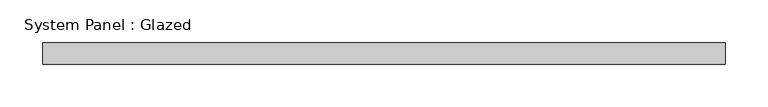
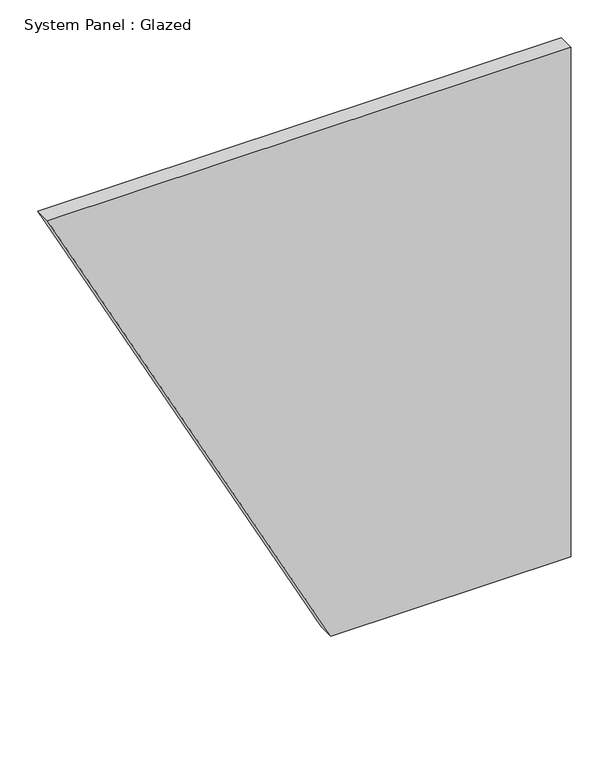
"""IFC4 building model written with IfcOpenShell, lengths in millimetres: plate geometry, System Panel : Glazed."""

from ifc_helpers import new_model, si_unit, frame, origin, place, context, project, spatial, polyline, outline, extrude, source, transform, mapped, element, save


def system_panel_glazed_f67ee010(model_context):
    return source(origin(), model_context, "Body", "SweptSolid", [
        extrude(outline(polyline([(0.0, 33.5088603), (0.0, 399.8447139), (823.0393929, 399.8447139), (823.0393929, -399.8447139), (0.0, 33.5088603)])), frame((0.0, -12.5, 0.0), z_axis=(0.0, 1.0, 0.0), x_axis=(0.0, 0.0, 1.0)), (0.0, 0.0, 1.0), 25.0),
    ])


if __name__ == "__main__":
    model = new_model("IFC4")
    model_context = context("Model", 3, world=origin())
    ifc_project = project(units=[si_unit("LENGTHUNIT", "METRE", prefix="MILLI")], contexts=[model_context])
    site = spatial("IfcSite", under=ifc_project)
    building = spatial("IfcBuilding", under=site)
    placement = place(None, origin())
    system_panel_glazed_shape = system_panel_glazed_f67ee010(model_context)
    element("IfcPlate", 1, ObjectType="System Panel : Glazed", at=placement, inside=building, context=model_context, shape_type="MappedRepresentation", body=[
        mapped(system_panel_glazed_shape, transform((0.0, 0.0, 0.0), x_axis=(1.0, 0.0, 0.0), y_axis=(0.0, 1.0, 0.0), z_axis=(0.0, 0.0, 1.0))),
    ])
    save(model, "model.ifc")
